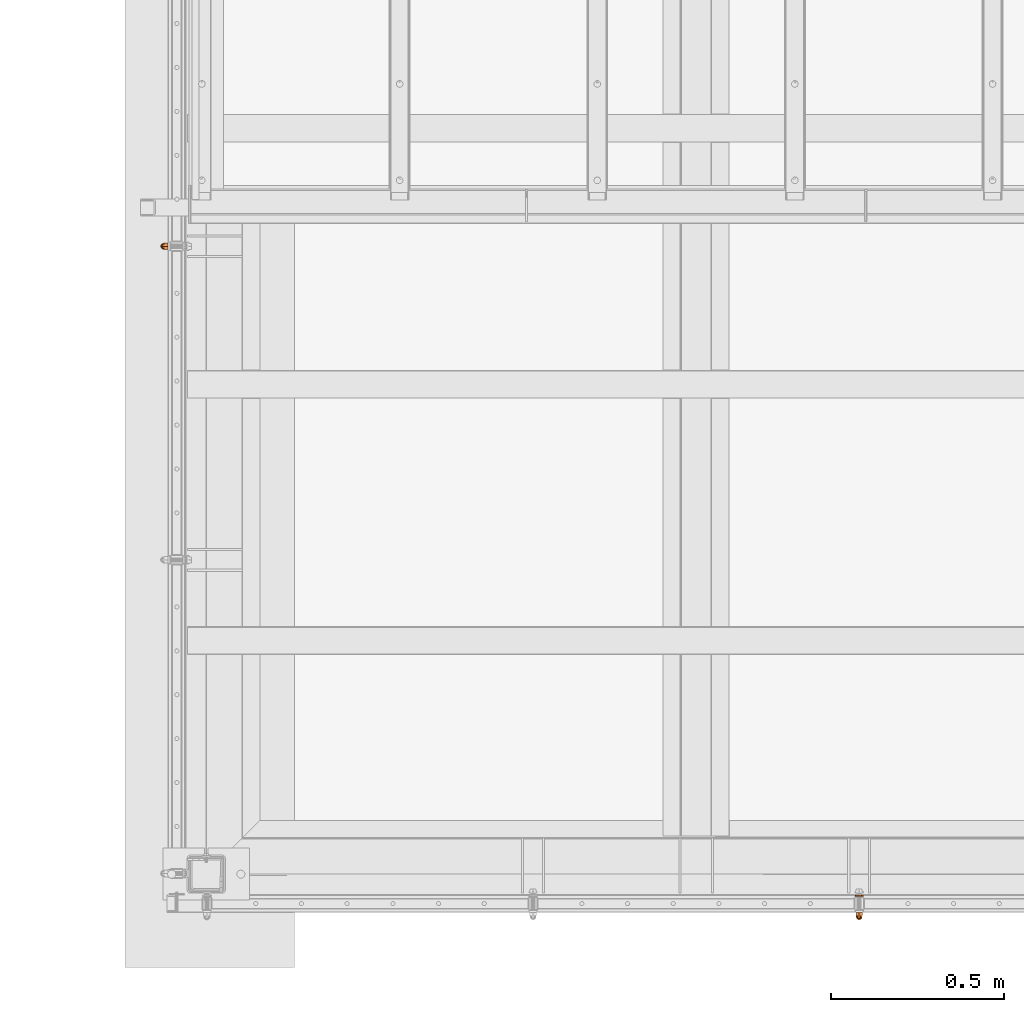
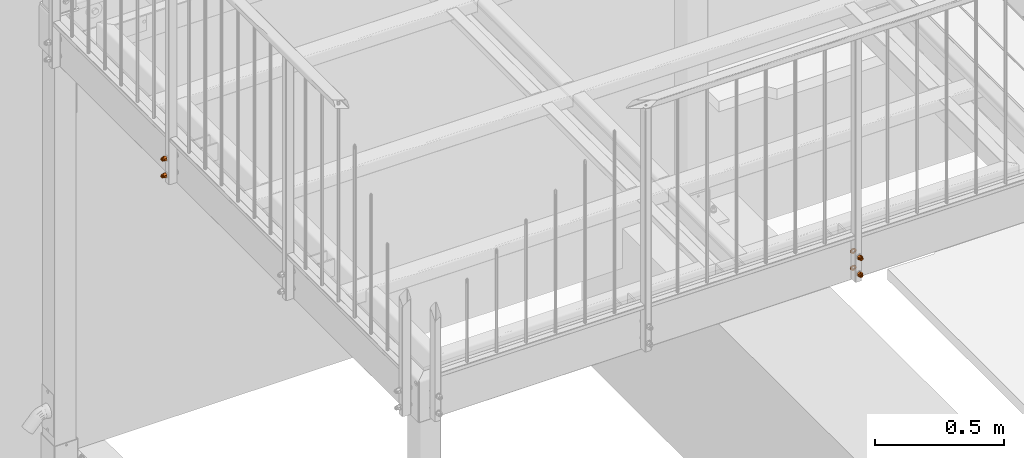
# One storey, part 101 of 116: 6 proxies.
"""IFC2X3 building model written with IfcOpenShell, lengths in millimetres."""

from ifc_helpers import new_model, entity, si_unit, converted_unit, origin_with_axes, place, context, project, spatial, faceted_brep, material, element, save


model = new_model("IFC2X3")

# Units and contexts
model_context = context("Model", 3, precision=1e-09, world=origin_with_axes())
ifc_project = project(units=[si_unit("LENGTHUNIT", "METRE", prefix="MILLI"), si_unit("AREAUNIT", "SQUARE_METRE"), si_unit("VOLUMEUNIT", "CUBIC_METRE"), converted_unit("PLANEANGLEUNIT", "DEGREE", entity("IfcPlaneAngleMeasure", 0.01745329), si_unit("PLANEANGLEUNIT", "RADIAN"), dimensions=[0, 0, 0, 0, 0, 0, 0])], contexts=[model_context])

# Site, building, storey
site_placement = place(None, origin_with_axes())
site = spatial("IfcSite", under=ifc_project, at=site_placement, Name="Site", CompositionType="ELEMENT")
building_placement = place(site_placement, origin_with_axes())
building = spatial("IfcBuilding", under=site, at=building_placement, Name="Struktur 1", CompositionType="ELEMENT")
storey_placement = place(building_placement, origin_with_axes())
storey = spatial("IfcBuildingStorey", under=building, at=storey_placement, Name="Default Storey", CompositionType="ELEMENT", Elevation=0.0)

# Proxies
ifc_material = material(Name="Kein")
proxy_1_placement = place(None, origin_with_axes())
element("IfcBuildingElementProxy", 1, at=proxy_1_placement, inside=storey, material=ifc_material, ObjectType="-", context=model_context, shape_type="Brep", body=[
    faceted_brep([(57217.049134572, 9022.359883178, -145.0), (57217.049134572, 9012.359883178, -145.0), (57217.852982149, 9012.359883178, -148.0), (57217.852982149, 9022.359883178, -148.0), (57220.049134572, 9012.359883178, -150.196152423), (57220.049134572, 9022.359883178, -150.196152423), (57217.852982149, 9022.359883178, -142.0), (57217.852982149, 9012.359883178, -142.0), (57213.569265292, 9022.359883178, -139.526794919), (57223.049134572, 9022.359883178, -134.053589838), (57232.529003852, 9022.359883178, -139.526794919), (57232.529003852, 9022.359883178, -150.473205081), (57223.049134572, 9022.359883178, -155.946410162), (57213.569265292, 9022.359883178, -150.473205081), (57220.049134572, 9022.359883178, -139.803847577), (57223.049134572, 9022.359883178, -151.0), (57226.049134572, 9022.359883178, -150.196152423), (57228.245286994, 9022.359883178, -148.0), (57229.049134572, 9022.359883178, -145.0), (57228.245286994, 9022.359883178, -142.0), (57226.049134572, 9022.359883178, -139.803847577), (57223.049134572, 9022.359883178, -139.0), (57223.049134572, 9012.359883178, -134.053589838), (57213.569265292, 9012.359883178, -139.526794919), (57213.569265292, 9012.359883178, -150.473205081), (57223.049134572, 9012.359883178, -155.946410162), (57232.529003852, 9012.359883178, -150.473205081), (57232.529003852, 9012.359883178, -139.526794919), (57220.049134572, 9012.359883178, -139.803847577), (57223.049134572, 9012.359883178, -139.0), (57226.049134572, 9012.359883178, -139.803847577), (57228.245286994, 9012.359883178, -142.0), (57229.049134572, 9012.359883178, -145.0), (57228.245286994, 9012.359883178, -148.0), (57226.049134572, 9012.359883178, -150.196152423), (57223.049134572, 9012.359883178, -151.0)], [[[0, 1, 2, 3]], [[3, 2, 4, 5]], [[1, 0, 6, 7]], [[8, 9, 10, 11, 12, 13], [14, 6, 0, 3, 5, 15, 16, 17, 18, 19, 20, 21]], [[22, 23, 24, 25, 26, 27], [1, 7, 28, 29, 30, 31, 32, 33, 34, 35, 4, 2]], [[7, 6, 14, 28]], [[24, 23, 8, 13]], [[5, 4, 35, 15]], [[13, 12, 25, 24]], [[28, 14, 21, 29]], [[23, 22, 9, 8]], [[15, 35, 34, 16]], [[12, 11, 26, 25]], [[29, 21, 20, 30]], [[22, 27, 10, 9]], [[16, 34, 33, 17]], [[27, 26, 11, 10]], [[30, 20, 19, 31]], [[17, 33, 32, 18]], [[31, 19, 18, 32]]]),
    faceted_brep([(57223.049134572, 9012.359883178, -136.0), (57223.049134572, 9009.359883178, -136.0), (57227.549134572, 9009.359883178, -137.205771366), (57227.549134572, 9012.359883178, -137.205771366), (57218.549134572, 9012.359883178, -137.205771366), (57218.549134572, 9009.359883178, -137.205771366), (57215.254905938, 9009.359883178, -149.5), (57218.549134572, 9009.359883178, -152.794228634), (57223.049134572, 9009.359883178, -154.0), (57227.549134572, 9009.359883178, -152.794228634), (57230.843363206, 9009.359883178, -149.5), (57232.049134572, 9009.359883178, -145.0), (57230.843363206, 9009.359883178, -140.5), (57215.254905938, 9009.359883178, -140.5), (57214.049134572, 9009.359883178, -145.0), (57230.843363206, 9012.359883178, -149.5), (57227.549134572, 9012.359883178, -152.794228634), (57223.049134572, 9012.359883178, -154.0), (57218.549134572, 9012.359883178, -152.794228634), (57215.254905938, 9012.359883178, -149.5), (57214.049134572, 9012.359883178, -145.0), (57215.254905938, 9012.359883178, -140.5), (57230.843363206, 9012.359883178, -140.5), (57232.049134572, 9012.359883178, -145.0)], [[[0, 1, 2, 3]], [[1, 0, 4, 5]], [[6, 7, 8, 9, 10, 11, 12, 2, 1, 5, 13, 14]], [[15, 16, 17, 18, 19, 20, 21, 4, 0, 3, 22, 23]], [[3, 2, 12, 22]], [[5, 4, 21, 13]], [[22, 12, 11, 23]], [[13, 21, 20, 14]], [[7, 18, 17, 8]], [[19, 6, 14, 20]], [[18, 7, 6, 19]], [[23, 11, 10, 15]], [[8, 17, 16, 9]], [[15, 10, 9, 16]]]),
    faceted_brep([(57215.254905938, 9009.359883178, -140.5), (57216.299134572, 9004.859883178, -141.102885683), (57219.152020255, 9004.859883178, -138.25), (57218.549134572, 9009.359883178, -137.205771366), (57230.843363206, 9009.359883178, -149.5), (57227.549134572, 9009.359883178, -152.794228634), (57223.049134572, 9009.359883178, -154.0), (57218.549134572, 9009.359883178, -152.794228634), (57215.254905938, 9009.359883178, -149.5), (57214.049134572, 9009.359883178, -145.0), (57223.049134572, 9009.359883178, -136.0), (57227.549134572, 9009.359883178, -137.205771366), (57230.843363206, 9009.359883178, -140.5), (57232.049134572, 9009.359883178, -145.0), (57223.049134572, 9004.859883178, -137.205771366), (57215.254905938, 9004.859883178, -145.0), (57218.549134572, 9001.565654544, -145.0), (57219.152020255, 9001.565654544, -142.75), (57226.946248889, 9004.859883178, -138.25), (57220.799134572, 9001.565654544, -141.102885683), (57216.299134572, 9004.859883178, -148.897114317), (57219.152020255, 9001.565654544, -147.25), (57223.049134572, 9001.565654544, -140.5), (57223.049134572, 9000.359883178, -145.0), (57219.152020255, 9004.859883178, -151.75), (57220.799134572, 9001.565654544, -148.897114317), (57223.049134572, 9004.859883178, -152.794228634), (57229.799134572, 9004.859883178, -141.102885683), (57225.299134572, 9001.565654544, -141.102885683), (57223.049134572, 9001.565654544, -149.5), (57226.946248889, 9004.859883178, -151.75), (57225.299134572, 9001.565654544, -148.897114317), (57230.843363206, 9004.859883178, -145.0), (57226.946248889, 9001.565654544, -142.75), (57229.799134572, 9004.859883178, -148.897114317), (57226.946248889, 9001.565654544, -147.25), (57227.549134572, 9001.565654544, -145.0)], [[[0, 1, 2, 3]], [[4, 5, 6, 7, 8, 9, 0, 3, 10, 11, 12, 13]], [[3, 2, 14, 10]], [[15, 16, 17, 1]], [[1, 0, 9, 15]], [[10, 14, 18, 11]], [[1, 17, 19, 2]], [[16, 15, 20, 21]], [[2, 19, 22, 14]], [[23, 17, 16]], [[24, 25, 21, 20]], [[23, 16, 21]], [[24, 7, 6, 26]], [[20, 8, 7, 24]], [[15, 9, 8, 20]], [[11, 18, 27, 12]], [[14, 22, 28, 18]], [[23, 19, 17]], [[26, 29, 25, 24]], [[23, 21, 25]], [[23, 22, 19]], [[26, 6, 5, 30]], [[29, 26, 30, 31]], [[23, 25, 29]], [[12, 27, 32, 13]], [[18, 28, 33, 27]], [[23, 28, 22]], [[23, 29, 31]], [[23, 33, 28]], [[30, 5, 4, 34]], [[31, 30, 34, 35]], [[23, 31, 35]], [[13, 32, 34, 4]], [[27, 33, 36, 32]], [[23, 36, 33]], [[23, 35, 36]], [[35, 34, 32, 36]]]),
])
proxy_2_placement = place(None, origin_with_axes())
element("IfcBuildingElementProxy", 2, at=proxy_2_placement, inside=storey, material=ifc_material, ObjectType="-", context=model_context, shape_type="Brep", body=[
    faceted_brep([(57217.049134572, 9022.359883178, -65.0), (57217.049134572, 9012.359883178, -65.0), (57217.852982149, 9012.359883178, -68.0), (57217.852982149, 9022.359883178, -68.0), (57220.049134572, 9012.359883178, -70.196152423), (57220.049134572, 9022.359883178, -70.196152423), (57217.852982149, 9022.359883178, -62.0), (57217.852982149, 9012.359883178, -62.0), (57213.569265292, 9022.359883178, -59.526794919), (57223.049134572, 9022.359883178, -54.053589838), (57232.529003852, 9022.359883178, -59.526794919), (57232.529003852, 9022.359883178, -70.473205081), (57223.049134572, 9022.359883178, -75.946410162), (57213.569265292, 9022.359883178, -70.473205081), (57220.049134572, 9022.359883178, -59.803847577), (57223.049134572, 9022.359883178, -71.0), (57226.049134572, 9022.359883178, -70.196152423), (57228.245286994, 9022.359883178, -68.0), (57229.049134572, 9022.359883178, -65.0), (57228.245286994, 9022.359883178, -62.0), (57226.049134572, 9022.359883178, -59.803847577), (57223.049134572, 9022.359883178, -59.0), (57223.049134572, 9012.359883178, -54.053589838), (57213.569265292, 9012.359883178, -59.526794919), (57213.569265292, 9012.359883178, -70.473205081), (57223.049134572, 9012.359883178, -75.946410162), (57232.529003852, 9012.359883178, -70.473205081), (57232.529003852, 9012.359883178, -59.526794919), (57220.049134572, 9012.359883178, -59.803847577), (57223.049134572, 9012.359883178, -59.0), (57226.049134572, 9012.359883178, -59.803847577), (57228.245286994, 9012.359883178, -62.0), (57229.049134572, 9012.359883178, -65.0), (57228.245286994, 9012.359883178, -68.0), (57226.049134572, 9012.359883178, -70.196152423), (57223.049134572, 9012.359883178, -71.0)], [[[0, 1, 2, 3]], [[3, 2, 4, 5]], [[1, 0, 6, 7]], [[8, 9, 10, 11, 12, 13], [14, 6, 0, 3, 5, 15, 16, 17, 18, 19, 20, 21]], [[22, 23, 24, 25, 26, 27], [1, 7, 28, 29, 30, 31, 32, 33, 34, 35, 4, 2]], [[7, 6, 14, 28]], [[24, 23, 8, 13]], [[5, 4, 35, 15]], [[13, 12, 25, 24]], [[28, 14, 21, 29]], [[23, 22, 9, 8]], [[15, 35, 34, 16]], [[12, 11, 26, 25]], [[29, 21, 20, 30]], [[22, 27, 10, 9]], [[16, 34, 33, 17]], [[27, 26, 11, 10]], [[30, 20, 19, 31]], [[17, 33, 32, 18]], [[31, 19, 18, 32]]]),
    faceted_brep([(57223.049134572, 9012.359883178, -56.0), (57223.049134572, 9009.359883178, -56.0), (57227.549134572, 9009.359883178, -57.205771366), (57227.549134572, 9012.359883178, -57.205771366), (57218.549134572, 9012.359883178, -57.205771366), (57218.549134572, 9009.359883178, -57.205771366), (57215.254905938, 9009.359883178, -69.5), (57218.549134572, 9009.359883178, -72.794228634), (57223.049134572, 9009.359883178, -74.0), (57227.549134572, 9009.359883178, -72.794228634), (57230.843363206, 9009.359883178, -69.5), (57232.049134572, 9009.359883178, -65.0), (57230.843363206, 9009.359883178, -60.5), (57215.254905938, 9009.359883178, -60.5), (57214.049134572, 9009.359883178, -65.0), (57230.843363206, 9012.359883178, -69.5), (57227.549134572, 9012.359883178, -72.794228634), (57223.049134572, 9012.359883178, -74.0), (57218.549134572, 9012.359883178, -72.794228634), (57215.254905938, 9012.359883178, -69.5), (57214.049134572, 9012.359883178, -65.0), (57215.254905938, 9012.359883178, -60.5), (57230.843363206, 9012.359883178, -60.5), (57232.049134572, 9012.359883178, -65.0)], [[[0, 1, 2, 3]], [[1, 0, 4, 5]], [[6, 7, 8, 9, 10, 11, 12, 2, 1, 5, 13, 14]], [[15, 16, 17, 18, 19, 20, 21, 4, 0, 3, 22, 23]], [[3, 2, 12, 22]], [[5, 4, 21, 13]], [[22, 12, 11, 23]], [[13, 21, 20, 14]], [[7, 18, 17, 8]], [[19, 6, 14, 20]], [[18, 7, 6, 19]], [[23, 11, 10, 15]], [[8, 17, 16, 9]], [[15, 10, 9, 16]]]),
    faceted_brep([(57215.254905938, 9009.359883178, -60.5), (57216.299134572, 9004.859883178, -61.102885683), (57219.152020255, 9004.859883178, -58.25), (57218.549134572, 9009.359883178, -57.205771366), (57230.843363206, 9009.359883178, -69.5), (57227.549134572, 9009.359883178, -72.794228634), (57223.049134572, 9009.359883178, -74.0), (57218.549134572, 9009.359883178, -72.794228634), (57215.254905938, 9009.359883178, -69.5), (57214.049134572, 9009.359883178, -65.0), (57223.049134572, 9009.359883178, -56.0), (57227.549134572, 9009.359883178, -57.205771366), (57230.843363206, 9009.359883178, -60.5), (57232.049134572, 9009.359883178, -65.0), (57223.049134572, 9004.859883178, -57.205771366), (57215.254905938, 9004.859883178, -65.0), (57218.549134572, 9001.565654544, -65.0), (57219.152020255, 9001.565654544, -62.75), (57226.946248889, 9004.859883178, -58.25), (57220.799134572, 9001.565654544, -61.102885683), (57216.299134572, 9004.859883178, -68.897114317), (57219.152020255, 9001.565654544, -67.25), (57223.049134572, 9001.565654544, -60.5), (57223.049134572, 9000.359883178, -65.0), (57219.152020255, 9004.859883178, -71.75), (57220.799134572, 9001.565654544, -68.897114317), (57223.049134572, 9004.859883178, -72.794228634), (57229.799134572, 9004.859883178, -61.102885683), (57225.299134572, 9001.565654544, -61.102885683), (57223.049134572, 9001.565654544, -69.5), (57226.946248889, 9004.859883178, -71.75), (57225.299134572, 9001.565654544, -68.897114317), (57230.843363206, 9004.859883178, -65.0), (57226.946248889, 9001.565654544, -62.75), (57229.799134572, 9004.859883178, -68.897114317), (57226.946248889, 9001.565654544, -67.25), (57227.549134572, 9001.565654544, -65.0)], [[[0, 1, 2, 3]], [[4, 5, 6, 7, 8, 9, 0, 3, 10, 11, 12, 13]], [[3, 2, 14, 10]], [[15, 16, 17, 1]], [[1, 0, 9, 15]], [[10, 14, 18, 11]], [[1, 17, 19, 2]], [[16, 15, 20, 21]], [[2, 19, 22, 14]], [[23, 17, 16]], [[24, 25, 21, 20]], [[23, 16, 21]], [[24, 7, 6, 26]], [[20, 8, 7, 24]], [[15, 9, 8, 20]], [[11, 18, 27, 12]], [[14, 22, 28, 18]], [[23, 19, 17]], [[26, 29, 25, 24]], [[23, 21, 25]], [[23, 22, 19]], [[26, 6, 5, 30]], [[29, 26, 30, 31]], [[23, 25, 29]], [[12, 27, 32, 13]], [[18, 28, 33, 27]], [[23, 28, 22]], [[23, 29, 31]], [[23, 33, 28]], [[30, 5, 4, 34]], [[31, 30, 34, 35]], [[23, 31, 35]], [[13, 32, 34, 4]], [[27, 33, 36, 32]], [[23, 36, 33]], [[23, 35, 36]], [[35, 34, 32, 36]]]),
])
proxy_3_placement = place(None, origin_with_axes())
element("IfcBuildingElementProxy", 3, at=proxy_3_placement, inside=storey, material=ifc_material, ObjectType="-", context=model_context, shape_type="Brep", body=[
    faceted_brep([(57212.223817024, 9067.359883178, -71.25), (57216.799134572, 9067.359883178, -75.825317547), (57223.049134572, 9067.359883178, -77.5), (57229.299134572, 9067.359883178, -75.825317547), (57233.874452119, 9067.359883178, -71.25), (57235.549134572, 9067.359883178, -65.0), (57233.874452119, 9067.359883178, -58.75), (57229.299134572, 9067.359883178, -54.174682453), (57223.049134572, 9067.359883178, -52.5), (57216.799134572, 9067.359883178, -54.174682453), (57212.223817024, 9067.359883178, -58.75), (57210.549134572, 9067.359883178, -65.0), (57223.049134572, 9067.359883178, -71.0), (57220.049134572, 9067.359883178, -70.196152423), (57217.852982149, 9067.359883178, -68.0), (57217.049134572, 9067.359883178, -65.0), (57217.852982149, 9067.359883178, -62.0), (57220.049134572, 9067.359883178, -59.803847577), (57223.049134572, 9067.359883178, -59.0), (57226.049134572, 9067.359883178, -59.803847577), (57228.245286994, 9067.359883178, -62.0), (57229.049134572, 9067.359883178, -65.0), (57228.245286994, 9067.359883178, -68.0), (57226.049134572, 9067.359883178, -70.196152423), (57212.223817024, 9072.359883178, -71.25), (57216.799134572, 9072.359883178, -75.825317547), (57210.549134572, 9072.359883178, -65.0), (57212.223817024, 9072.359883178, -58.75), (57216.799134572, 9072.359883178, -54.174682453), (57223.049134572, 9072.359883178, -52.5), (57229.299134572, 9072.359883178, -54.174682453), (57233.874452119, 9072.359883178, -58.75), (57235.549134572, 9072.359883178, -65.0), (57233.874452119, 9072.359883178, -71.25), (57229.299134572, 9072.359883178, -75.825317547), (57223.049134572, 9072.359883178, -77.5), (57217.852982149, 9072.359883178, -62.0), (57217.049134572, 9072.359883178, -65.0), (57217.852982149, 9072.359883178, -68.0), (57220.049134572, 9072.359883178, -70.196152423), (57223.049134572, 9072.359883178, -71.0), (57226.049134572, 9072.359883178, -70.196152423), (57228.245286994, 9072.359883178, -68.0), (57229.049134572, 9072.359883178, -65.0), (57228.245286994, 9072.359883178, -62.0), (57226.049134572, 9072.359883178, -59.803847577), (57223.049134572, 9072.359883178, -59.0), (57220.049134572, 9072.359883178, -59.803847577)], [[[0, 1, 2, 3, 4, 5, 6, 7, 8, 9, 10, 11], [12, 13, 14, 15, 16, 17, 18, 19, 20, 21, 22, 23]], [[0, 24, 25, 1]], [[24, 26, 27, 28, 29, 30, 31, 32, 33, 34, 35, 25], [36, 37, 38, 39, 40, 41, 42, 43, 44, 45, 46, 47]], [[38, 14, 13, 39]], [[24, 0, 11, 26]], [[14, 38, 37, 15]], [[39, 13, 12, 40]], [[1, 25, 35, 2]], [[26, 11, 10, 27]], [[15, 37, 36, 16]], [[40, 12, 23, 41]], [[2, 35, 34, 3]], [[27, 10, 9, 28]], [[16, 36, 47, 17]], [[22, 42, 41, 23]], [[3, 34, 33, 4]], [[42, 22, 21, 43]], [[28, 9, 8, 29]], [[17, 47, 46, 18]], [[20, 44, 43, 21]], [[4, 33, 32, 5]], [[45, 19, 18, 46]], [[44, 20, 19, 45]], [[29, 8, 7, 30]], [[5, 32, 31, 6]], [[30, 7, 6, 31]]]),
])
proxy_4_placement = place(None, origin_with_axes())
element("IfcBuildingElementProxy", 4, at=proxy_4_placement, inside=storey, material=ifc_material, ObjectType="-", context=model_context, shape_type="Brep", body=[
    faceted_brep([(57212.223817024, 9067.359883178, -151.25), (57216.799134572, 9067.359883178, -155.825317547), (57223.049134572, 9067.359883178, -157.5), (57229.299134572, 9067.359883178, -155.825317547), (57233.874452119, 9067.359883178, -151.25), (57235.549134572, 9067.359883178, -145.0), (57233.874452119, 9067.359883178, -138.75), (57229.299134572, 9067.359883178, -134.174682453), (57223.049134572, 9067.359883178, -132.5), (57216.799134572, 9067.359883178, -134.174682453), (57212.223817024, 9067.359883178, -138.75), (57210.549134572, 9067.359883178, -145.0), (57223.049134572, 9067.359883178, -151.0), (57220.049134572, 9067.359883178, -150.196152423), (57217.852982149, 9067.359883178, -148.0), (57217.049134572, 9067.359883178, -145.0), (57217.852982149, 9067.359883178, -142.0), (57220.049134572, 9067.359883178, -139.803847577), (57223.049134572, 9067.359883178, -139.0), (57226.049134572, 9067.359883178, -139.803847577), (57228.245286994, 9067.359883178, -142.0), (57229.049134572, 9067.359883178, -145.0), (57228.245286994, 9067.359883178, -148.0), (57226.049134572, 9067.359883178, -150.196152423), (57212.223817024, 9072.359883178, -151.25), (57216.799134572, 9072.359883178, -155.825317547), (57210.549134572, 9072.359883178, -145.0), (57212.223817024, 9072.359883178, -138.75), (57216.799134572, 9072.359883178, -134.174682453), (57223.049134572, 9072.359883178, -132.5), (57229.299134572, 9072.359883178, -134.174682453), (57233.874452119, 9072.359883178, -138.75), (57235.549134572, 9072.359883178, -145.0), (57233.874452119, 9072.359883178, -151.25), (57229.299134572, 9072.359883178, -155.825317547), (57223.049134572, 9072.359883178, -157.5), (57217.852982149, 9072.359883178, -142.0), (57217.049134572, 9072.359883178, -145.0), (57217.852982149, 9072.359883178, -148.0), (57220.049134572, 9072.359883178, -150.196152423), (57223.049134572, 9072.359883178, -151.0), (57226.049134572, 9072.359883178, -150.196152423), (57228.245286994, 9072.359883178, -148.0), (57229.049134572, 9072.359883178, -145.0), (57228.245286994, 9072.359883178, -142.0), (57226.049134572, 9072.359883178, -139.803847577), (57223.049134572, 9072.359883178, -139.0), (57220.049134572, 9072.359883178, -139.803847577)], [[[0, 1, 2, 3, 4, 5, 6, 7, 8, 9, 10, 11], [12, 13, 14, 15, 16, 17, 18, 19, 20, 21, 22, 23]], [[0, 24, 25, 1]], [[24, 26, 27, 28, 29, 30, 31, 32, 33, 34, 35, 25], [36, 37, 38, 39, 40, 41, 42, 43, 44, 45, 46, 47]], [[38, 14, 13, 39]], [[24, 0, 11, 26]], [[14, 38, 37, 15]], [[39, 13, 12, 40]], [[1, 25, 35, 2]], [[26, 11, 10, 27]], [[15, 37, 36, 16]], [[40, 12, 23, 41]], [[2, 35, 34, 3]], [[27, 10, 9, 28]], [[16, 36, 47, 17]], [[22, 42, 41, 23]], [[3, 34, 33, 4]], [[42, 22, 21, 43]], [[28, 9, 8, 29]], [[17, 47, 46, 18]], [[20, 44, 43, 21]], [[4, 33, 32, 5]], [[45, 19, 18, 46]], [[44, 20, 19, 45]], [[29, 8, 7, 30]], [[5, 32, 31, 6]], [[30, 7, 6, 31]]]),
])
proxy_5_placement = place(None, origin_with_axes())
element("IfcBuildingElementProxy", 5, at=proxy_5_placement, inside=storey, material=ifc_material, ObjectType="-", context=model_context, shape_type="Brep", body=[
    faceted_brep([(55227.049134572, 10952.358883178, -65.0), (55217.049134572, 10952.358883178, -65.0), (55217.049134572, 10951.555035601, -68.0), (55227.049134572, 10951.555035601, -68.0), (55217.049134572, 10949.358883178, -70.196152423), (55227.049134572, 10949.358883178, -70.196152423), (55227.049134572, 10951.555035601, -62.0), (55217.049134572, 10951.555035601, -62.0), (55227.049134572, 10955.838752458, -59.526794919), (55227.049134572, 10946.358883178, -54.053589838), (55227.049134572, 10936.879013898, -59.526794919), (55227.049134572, 10936.879013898, -70.473205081), (55227.049134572, 10946.358883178, -75.946410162), (55227.049134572, 10955.838752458, -70.473205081), (55227.049134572, 10949.358883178, -59.803847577), (55227.049134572, 10946.358883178, -71.0), (55227.049134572, 10943.358883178, -70.196152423), (55227.049134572, 10941.162730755, -68.0), (55227.049134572, 10940.358883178, -65.0), (55227.049134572, 10941.162730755, -62.0), (55227.049134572, 10943.358883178, -59.803847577), (55227.049134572, 10946.358883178, -59.0), (55217.049134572, 10946.358883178, -54.053589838), (55217.049134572, 10955.838752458, -59.526794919), (55217.049134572, 10955.838752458, -70.473205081), (55217.049134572, 10946.358883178, -75.946410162), (55217.049134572, 10936.879013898, -70.473205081), (55217.049134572, 10936.879013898, -59.526794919), (55217.049134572, 10949.358883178, -59.803847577), (55217.049134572, 10946.358883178, -59.0), (55217.049134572, 10943.358883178, -59.803847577), (55217.049134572, 10941.162730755, -62.0), (55217.049134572, 10940.358883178, -65.0), (55217.049134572, 10941.162730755, -68.0), (55217.049134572, 10943.358883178, -70.196152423), (55217.049134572, 10946.358883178, -71.0)], [[[0, 1, 2, 3]], [[3, 2, 4, 5]], [[1, 0, 6, 7]], [[8, 9, 10, 11, 12, 13], [14, 6, 0, 3, 5, 15, 16, 17, 18, 19, 20, 21]], [[22, 23, 24, 25, 26, 27], [1, 7, 28, 29, 30, 31, 32, 33, 34, 35, 4, 2]], [[7, 6, 14, 28]], [[24, 23, 8, 13]], [[5, 4, 35, 15]], [[13, 12, 25, 24]], [[28, 14, 21, 29]], [[23, 22, 9, 8]], [[15, 35, 34, 16]], [[12, 11, 26, 25]], [[29, 21, 20, 30]], [[22, 27, 10, 9]], [[16, 34, 33, 17]], [[27, 26, 11, 10]], [[30, 20, 19, 31]], [[17, 33, 32, 18]], [[31, 19, 18, 32]]]),
    faceted_brep([(55217.049134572, 10946.358883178, -56.0), (55214.049134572, 10946.358883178, -56.0), (55214.049134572, 10941.858883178, -57.205771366), (55217.049134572, 10941.858883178, -57.205771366), (55217.049134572, 10950.858883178, -57.205771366), (55214.049134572, 10950.858883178, -57.205771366), (55214.049134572, 10954.153111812, -69.5), (55214.049134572, 10950.858883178, -72.794228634), (55214.049134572, 10946.358883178, -74.0), (55214.049134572, 10941.858883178, -72.794228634), (55214.049134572, 10938.564654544, -69.5), (55214.049134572, 10937.358883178, -65.0), (55214.049134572, 10938.564654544, -60.5), (55214.049134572, 10954.153111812, -60.5), (55214.049134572, 10955.358883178, -65.0), (55217.049134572, 10938.564654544, -69.5), (55217.049134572, 10941.858883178, -72.794228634), (55217.049134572, 10946.358883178, -74.0), (55217.049134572, 10950.858883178, -72.794228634), (55217.049134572, 10954.153111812, -69.5), (55217.049134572, 10955.358883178, -65.0), (55217.049134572, 10954.153111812, -60.5), (55217.049134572, 10938.564654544, -60.5), (55217.049134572, 10937.358883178, -65.0)], [[[0, 1, 2, 3]], [[1, 0, 4, 5]], [[6, 7, 8, 9, 10, 11, 12, 2, 1, 5, 13, 14]], [[15, 16, 17, 18, 19, 20, 21, 4, 0, 3, 22, 23]], [[3, 2, 12, 22]], [[5, 4, 21, 13]], [[22, 12, 11, 23]], [[13, 21, 20, 14]], [[7, 18, 17, 8]], [[19, 6, 14, 20]], [[18, 7, 6, 19]], [[23, 11, 10, 15]], [[8, 17, 16, 9]], [[15, 10, 9, 16]]]),
    faceted_brep([(55214.049134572, 10954.153111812, -60.5), (55209.549134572, 10953.108883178, -61.102885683), (55209.549134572, 10950.255997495, -58.25), (55214.049134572, 10950.858883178, -57.205771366), (55214.049134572, 10938.564654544, -69.5), (55214.049134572, 10941.858883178, -72.794228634), (55214.049134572, 10946.358883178, -74.0), (55214.049134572, 10950.858883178, -72.794228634), (55214.049134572, 10954.153111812, -69.5), (55214.049134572, 10955.358883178, -65.0), (55214.049134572, 10946.358883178, -56.0), (55214.049134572, 10941.858883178, -57.205771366), (55214.049134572, 10938.564654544, -60.5), (55214.049134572, 10937.358883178, -65.0), (55209.549134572, 10946.358883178, -57.205771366), (55209.549134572, 10954.153111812, -65.0), (55206.254905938, 10950.858883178, -65.0), (55206.254905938, 10950.255997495, -62.75), (55209.549134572, 10942.461768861, -58.25), (55206.254905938, 10948.608883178, -61.102885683), (55209.549134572, 10953.108883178, -68.897114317), (55206.254905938, 10950.255997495, -67.25), (55206.254905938, 10946.358883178, -60.5), (55205.049134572, 10946.358883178, -65.0), (55209.549134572, 10950.255997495, -71.75), (55206.254905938, 10948.608883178, -68.897114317), (55209.549134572, 10946.358883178, -72.794228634), (55209.549134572, 10939.608883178, -61.102885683), (55206.254905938, 10944.108883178, -61.102885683), (55206.254905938, 10946.358883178, -69.5), (55209.549134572, 10942.461768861, -71.75), (55206.254905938, 10944.108883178, -68.897114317), (55209.549134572, 10938.564654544, -65.0), (55206.254905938, 10942.461768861, -62.75), (55209.549134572, 10939.608883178, -68.897114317), (55206.254905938, 10942.461768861, -67.25), (55206.254905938, 10941.858883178, -65.0)], [[[0, 1, 2, 3]], [[4, 5, 6, 7, 8, 9, 0, 3, 10, 11, 12, 13]], [[3, 2, 14, 10]], [[15, 16, 17, 1]], [[1, 0, 9, 15]], [[10, 14, 18, 11]], [[1, 17, 19, 2]], [[16, 15, 20, 21]], [[2, 19, 22, 14]], [[23, 17, 16]], [[24, 25, 21, 20]], [[23, 16, 21]], [[24, 7, 6, 26]], [[20, 8, 7, 24]], [[15, 9, 8, 20]], [[11, 18, 27, 12]], [[14, 22, 28, 18]], [[23, 19, 17]], [[26, 29, 25, 24]], [[23, 21, 25]], [[23, 22, 19]], [[26, 6, 5, 30]], [[29, 26, 30, 31]], [[23, 25, 29]], [[12, 27, 32, 13]], [[18, 28, 33, 27]], [[23, 28, 22]], [[23, 29, 31]], [[23, 33, 28]], [[30, 5, 4, 34]], [[31, 30, 34, 35]], [[23, 31, 35]], [[13, 32, 34, 4]], [[27, 33, 36, 32]], [[23, 36, 33]], [[23, 35, 36]], [[35, 34, 32, 36]]]),
])
proxy_6_placement = place(None, origin_with_axes())
element("IfcBuildingElementProxy", 6, at=proxy_6_placement, inside=storey, material=ifc_material, ObjectType="-", context=model_context, shape_type="Brep", body=[
    faceted_brep([(55227.049134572, 10952.358883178, -145.0), (55217.049134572, 10952.358883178, -145.0), (55217.049134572, 10951.555035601, -148.0), (55227.049134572, 10951.555035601, -148.0), (55217.049134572, 10949.358883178, -150.196152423), (55227.049134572, 10949.358883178, -150.196152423), (55227.049134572, 10951.555035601, -142.0), (55217.049134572, 10951.555035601, -142.0), (55227.049134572, 10955.838752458, -139.526794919), (55227.049134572, 10946.358883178, -134.053589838), (55227.049134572, 10936.879013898, -139.526794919), (55227.049134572, 10936.879013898, -150.473205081), (55227.049134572, 10946.358883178, -155.946410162), (55227.049134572, 10955.838752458, -150.473205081), (55227.049134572, 10949.358883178, -139.803847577), (55227.049134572, 10946.358883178, -151.0), (55227.049134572, 10943.358883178, -150.196152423), (55227.049134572, 10941.162730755, -148.0), (55227.049134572, 10940.358883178, -145.0), (55227.049134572, 10941.162730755, -142.0), (55227.049134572, 10943.358883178, -139.803847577), (55227.049134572, 10946.358883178, -139.0), (55217.049134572, 10946.358883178, -134.053589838), (55217.049134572, 10955.838752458, -139.526794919), (55217.049134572, 10955.838752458, -150.473205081), (55217.049134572, 10946.358883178, -155.946410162), (55217.049134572, 10936.879013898, -150.473205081), (55217.049134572, 10936.879013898, -139.526794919), (55217.049134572, 10949.358883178, -139.803847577), (55217.049134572, 10946.358883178, -139.0), (55217.049134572, 10943.358883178, -139.803847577), (55217.049134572, 10941.162730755, -142.0), (55217.049134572, 10940.358883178, -145.0), (55217.049134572, 10941.162730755, -148.0), (55217.049134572, 10943.358883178, -150.196152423), (55217.049134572, 10946.358883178, -151.0)], [[[0, 1, 2, 3]], [[3, 2, 4, 5]], [[1, 0, 6, 7]], [[8, 9, 10, 11, 12, 13], [14, 6, 0, 3, 5, 15, 16, 17, 18, 19, 20, 21]], [[22, 23, 24, 25, 26, 27], [1, 7, 28, 29, 30, 31, 32, 33, 34, 35, 4, 2]], [[7, 6, 14, 28]], [[24, 23, 8, 13]], [[5, 4, 35, 15]], [[13, 12, 25, 24]], [[28, 14, 21, 29]], [[23, 22, 9, 8]], [[15, 35, 34, 16]], [[12, 11, 26, 25]], [[29, 21, 20, 30]], [[22, 27, 10, 9]], [[16, 34, 33, 17]], [[27, 26, 11, 10]], [[30, 20, 19, 31]], [[17, 33, 32, 18]], [[31, 19, 18, 32]]]),
    faceted_brep([(55217.049134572, 10946.358883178, -136.0), (55214.049134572, 10946.358883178, -136.0), (55214.049134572, 10941.858883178, -137.205771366), (55217.049134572, 10941.858883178, -137.205771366), (55217.049134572, 10950.858883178, -137.205771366), (55214.049134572, 10950.858883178, -137.205771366), (55214.049134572, 10954.153111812, -149.5), (55214.049134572, 10950.858883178, -152.794228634), (55214.049134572, 10946.358883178, -154.0), (55214.049134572, 10941.858883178, -152.794228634), (55214.049134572, 10938.564654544, -149.5), (55214.049134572, 10937.358883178, -145.0), (55214.049134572, 10938.564654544, -140.5), (55214.049134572, 10954.153111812, -140.5), (55214.049134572, 10955.358883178, -145.0), (55217.049134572, 10938.564654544, -149.5), (55217.049134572, 10941.858883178, -152.794228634), (55217.049134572, 10946.358883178, -154.0), (55217.049134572, 10950.858883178, -152.794228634), (55217.049134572, 10954.153111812, -149.5), (55217.049134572, 10955.358883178, -145.0), (55217.049134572, 10954.153111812, -140.5), (55217.049134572, 10938.564654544, -140.5), (55217.049134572, 10937.358883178, -145.0)], [[[0, 1, 2, 3]], [[1, 0, 4, 5]], [[6, 7, 8, 9, 10, 11, 12, 2, 1, 5, 13, 14]], [[15, 16, 17, 18, 19, 20, 21, 4, 0, 3, 22, 23]], [[3, 2, 12, 22]], [[5, 4, 21, 13]], [[22, 12, 11, 23]], [[13, 21, 20, 14]], [[7, 18, 17, 8]], [[19, 6, 14, 20]], [[18, 7, 6, 19]], [[23, 11, 10, 15]], [[8, 17, 16, 9]], [[15, 10, 9, 16]]]),
    faceted_brep([(55214.049134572, 10954.153111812, -140.5), (55209.549134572, 10953.108883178, -141.102885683), (55209.549134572, 10950.255997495, -138.25), (55214.049134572, 10950.858883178, -137.205771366), (55214.049134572, 10938.564654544, -149.5), (55214.049134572, 10941.858883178, -152.794228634), (55214.049134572, 10946.358883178, -154.0), (55214.049134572, 10950.858883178, -152.794228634), (55214.049134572, 10954.153111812, -149.5), (55214.049134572, 10955.358883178, -145.0), (55214.049134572, 10946.358883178, -136.0), (55214.049134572, 10941.858883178, -137.205771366), (55214.049134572, 10938.564654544, -140.5), (55214.049134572, 10937.358883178, -145.0), (55209.549134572, 10946.358883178, -137.205771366), (55209.549134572, 10954.153111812, -145.0), (55206.254905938, 10950.858883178, -145.0), (55206.254905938, 10950.255997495, -142.75), (55209.549134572, 10942.461768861, -138.25), (55206.254905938, 10948.608883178, -141.102885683), (55209.549134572, 10953.108883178, -148.897114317), (55206.254905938, 10950.255997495, -147.25), (55206.254905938, 10946.358883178, -140.5), (55205.049134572, 10946.358883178, -145.0), (55209.549134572, 10950.255997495, -151.75), (55206.254905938, 10948.608883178, -148.897114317), (55209.549134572, 10946.358883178, -152.794228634), (55209.549134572, 10939.608883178, -141.102885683), (55206.254905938, 10944.108883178, -141.102885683), (55206.254905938, 10946.358883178, -149.5), (55209.549134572, 10942.461768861, -151.75), (55206.254905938, 10944.108883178, -148.897114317), (55209.549134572, 10938.564654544, -145.0), (55206.254905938, 10942.461768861, -142.75), (55209.549134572, 10939.608883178, -148.897114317), (55206.254905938, 10942.461768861, -147.25), (55206.254905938, 10941.858883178, -145.0)], [[[0, 1, 2, 3]], [[4, 5, 6, 7, 8, 9, 0, 3, 10, 11, 12, 13]], [[3, 2, 14, 10]], [[15, 16, 17, 1]], [[1, 0, 9, 15]], [[10, 14, 18, 11]], [[1, 17, 19, 2]], [[16, 15, 20, 21]], [[2, 19, 22, 14]], [[23, 17, 16]], [[24, 25, 21, 20]], [[23, 16, 21]], [[24, 7, 6, 26]], [[20, 8, 7, 24]], [[15, 9, 8, 20]], [[11, 18, 27, 12]], [[14, 22, 28, 18]], [[23, 19, 17]], [[26, 29, 25, 24]], [[23, 21, 25]], [[23, 22, 19]], [[26, 6, 5, 30]], [[29, 26, 30, 31]], [[23, 25, 29]], [[12, 27, 32, 13]], [[18, 28, 33, 27]], [[23, 28, 22]], [[23, 29, 31]], [[23, 33, 28]], [[30, 5, 4, 34]], [[31, 30, 34, 35]], [[23, 31, 35]], [[13, 32, 34, 4]], [[27, 33, 36, 32]], [[23, 36, 33]], [[23, 35, 36]], [[35, 34, 32, 36]]]),
])

save(model, "model.ifc")
